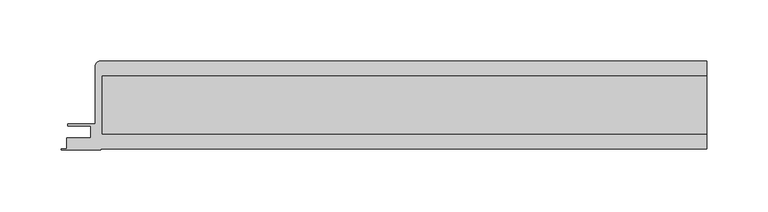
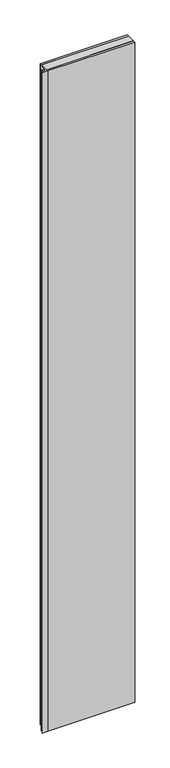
"""IFC4 building model written with IfcOpenShell, lengths in millimetres: plate geometry, Walls_External-Walls_Danpal_Danpatherm-K7-with-NM-Frame : Walls_External-Walls_Danpal_Danpatherm-K7-with-NM-Frame."""

from ifc_helpers import new_model, si_unit, point, frame, frame_2d, origin, place, context, project, spatial, polyline, circle_curve, trimmed, segment, composite_curve, outline, extrude, source, transform, mapped, element, save


def plate_110dad97(model_context):
    return source(origin(), model_context, "Body", "SweptSolid", [
        extrude(outline(polyline([(-243.4351701, 60.3432727), (249.031549, 60.3432727), (249.031549, 12.7999917), (-243.4351701, 12.7999917), (-243.4351701, 60.3432727)])), frame((0.0, 0.0, -22.0), z_axis=(0.0, 0.0, 1.0), x_axis=(1.0, 0.0, 0.0)), (0.0, 0.0, 1.0), 3970.063098),
        extrude(outline(composite_curve([segment(polyline([(-245.1886401, 72.343285), (249.031549, 72.343285), (249.031549, 60.3432727), (-243.4351701, 60.3432727), (-243.4351701, 12.7999917), (249.031549, 12.7999917), (249.031549, 0.8), (-244.7745404, 0.8), (-244.7745404, 0.0), (-276.6745404, 0.0), (-276.6745404, 0.8), (-272.4745404, 0.8), (-272.4745404, 9.7656785), (-252.6447806, 9.7656785), (-252.6447806, 19.6715177), (-271.6009262, 19.6715177), (-271.6009262, 20.9715623), (-249.031549, 20.9715623), (-249.031549, 68.5003761)]), True, "CONTINUOUS"), segment(trimmed(circle_curve(frame_2d((-245.1886401, 68.5003761)), 3.8429089), [point((-249.031549, 68.5003761))], [point((-245.1886401, 72.343285))], False, "CARTESIAN"), True, "CONTINUOUS")], self_intersect=False)), frame((0.0, 0.0, -22.0), z_axis=(0.0, 0.0, 1.0), x_axis=(1.0, 0.0, 0.0)), (0.0, 0.0, 1.0), 3970.063098),
    ])


if __name__ == "__main__":
    model = new_model("IFC4")
    model_context = context("Model", 3, world=origin())
    ifc_project = project(units=[si_unit("LENGTHUNIT", "METRE", prefix="MILLI")], contexts=[model_context])
    site = spatial("IfcSite", under=ifc_project)
    building = spatial("IfcBuilding", under=site)
    placement = place(None, origin())
    plate_shape = plate_110dad97(model_context)
    element("IfcPlate", 1, ObjectType="Walls_External-Walls_Danpal_Danpatherm-K7-with-NM-Frame : Walls_External-Walls_Danpal_Danpatherm-K7-with-NM-Frame", at=placement, inside=building, context=model_context, shape_type="MappedRepresentation", body=[
        mapped(plate_shape, transform((0.0, 0.0, 0.0), x_axis=(1.0, 0.0, 0.0), y_axis=(0.0, 1.0, 0.0), z_axis=(0.0, 0.0, 1.0))),
    ])
    save(model, "model.ifc")
